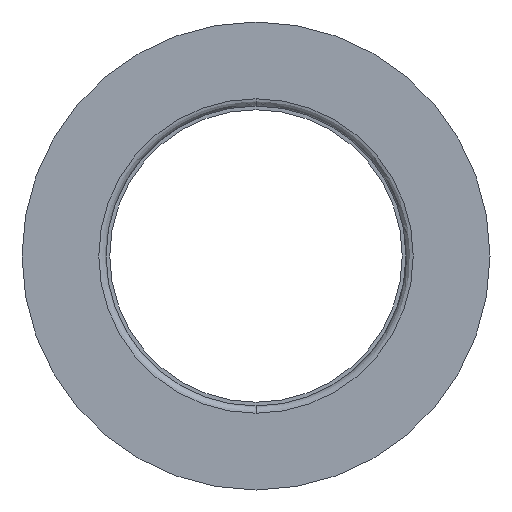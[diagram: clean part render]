
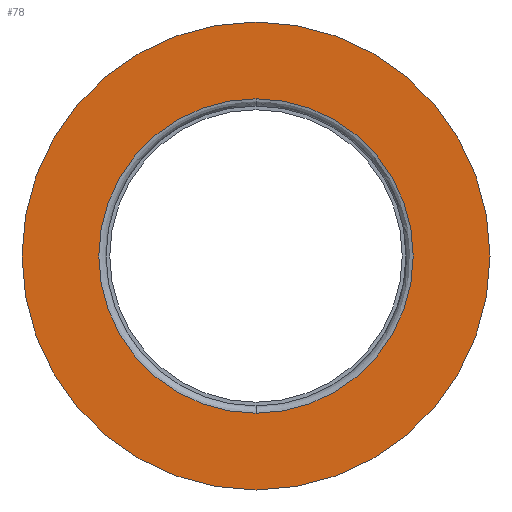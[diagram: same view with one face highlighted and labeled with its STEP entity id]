
A CAD part, left-side view. The second image highlights one B-rep face of the part: STEP entity #78.
In plain terms, the highlighted free-form (B-spline) face has degree [1, 1] with [2, 2] control points.
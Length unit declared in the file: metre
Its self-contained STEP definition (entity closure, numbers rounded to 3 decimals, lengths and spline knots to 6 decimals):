
#78 = ADVANCED_FACE( '', ( #105, #106 ), #107, .T. );
#105 = FACE_BOUND( '', #160, .T. );
#106 = FACE_OUTER_BOUND( '', #161, .T. );
#107 = B_SPLINE_SURFACE_WITH_KNOTS( '', 1, 1, ( ( #162, #163 ), ( #164, #165 ) ), .UNSPECIFIED., .F., .F., .F., ( 2, 2 ), ( 2, 2 ), ( 0., 1. ), ( 0., 1. ), .UNSPECIFIED. );
#160 = EDGE_LOOP( '', ( #339, #340 ) );
#161 = EDGE_LOOP( '', ( #341, #342 ) );
#162 = CARTESIAN_POINT( '', ( -0.06, -0.016192, -0.016192 ) );
#163 = CARTESIAN_POINT( '', ( -0.06, 0.016192, -0.016192 ) );
#164 = CARTESIAN_POINT( '', ( -0.06, -0.016192, 0.016192 ) );
#165 = CARTESIAN_POINT( '', ( -0.06, 0.016192, 0.016192 ) );
#339 = ORIENTED_EDGE( '', *, *, #487, .T. );
#340 = ORIENTED_EDGE( '', *, *, #488, .T. );
#341 = ORIENTED_EDGE( '', *, *, #489, .T. );
#342 = ORIENTED_EDGE( '', *, *, #490, .T. );
#487 = EDGE_CURVE( '', #539, #540, #541, .F. );
#488 = EDGE_CURVE( '', #540, #539, #542, .F. );
#489 = EDGE_CURVE( '', #543, #544, #545, .F. );
#490 = EDGE_CURVE( '', #544, #543, #546, .F. );
#539 = VERTEX_POINT( '', #619 );
#540 = VERTEX_POINT( '', #620 );
#541 = CIRCLE( '', #621, 0.01075 );
#542 = CIRCLE( '', #622, 0.01075 );
#543 = VERTEX_POINT( '', #623 );
#544 = VERTEX_POINT( '', #624 );
#545 = CIRCLE( '', #625, 0.016 );
#546 = CIRCLE( '', #626, 0.016 );
#619 = CARTESIAN_POINT( '', ( -0.06, 0., -0.01075 ) );
#620 = CARTESIAN_POINT( '', ( -0.06, 0., 0.01075 ) );
#621 = AXIS2_PLACEMENT_3D( '', #749, #750, #751 );
#622 = AXIS2_PLACEMENT_3D( '', #752, #753, #754 );
#623 = CARTESIAN_POINT( '', ( -0.06, 0., 0.016 ) );
#624 = CARTESIAN_POINT( '', ( -0.06, 0., -0.016 ) );
#625 = AXIS2_PLACEMENT_3D( '', #755, #756, #757 );
#626 = AXIS2_PLACEMENT_3D( '', #758, #759, #760 );
#749 = CARTESIAN_POINT( '', ( -0.06, 0., 0. ) );
#750 = DIRECTION( '', ( -1., 0., 0. ) );
#751 = DIRECTION( '', ( 0., -1., 0. ) );
#752 = CARTESIAN_POINT( '', ( -0.06, 0., 0. ) );
#753 = DIRECTION( '', ( -1., 0., 0. ) );
#754 = DIRECTION( '', ( 0., -1., 0. ) );
#755 = CARTESIAN_POINT( '', ( -0.06, 0., 0. ) );
#756 = DIRECTION( '', ( 1., 0., 0. ) );
#757 = DIRECTION( '', ( 0., 0., -1. ) );
#758 = CARTESIAN_POINT( '', ( -0.06, 0., 0. ) );
#759 = DIRECTION( '', ( 1., 0., 0. ) );
#760 = DIRECTION( '', ( 0., 0., -1. ) );
